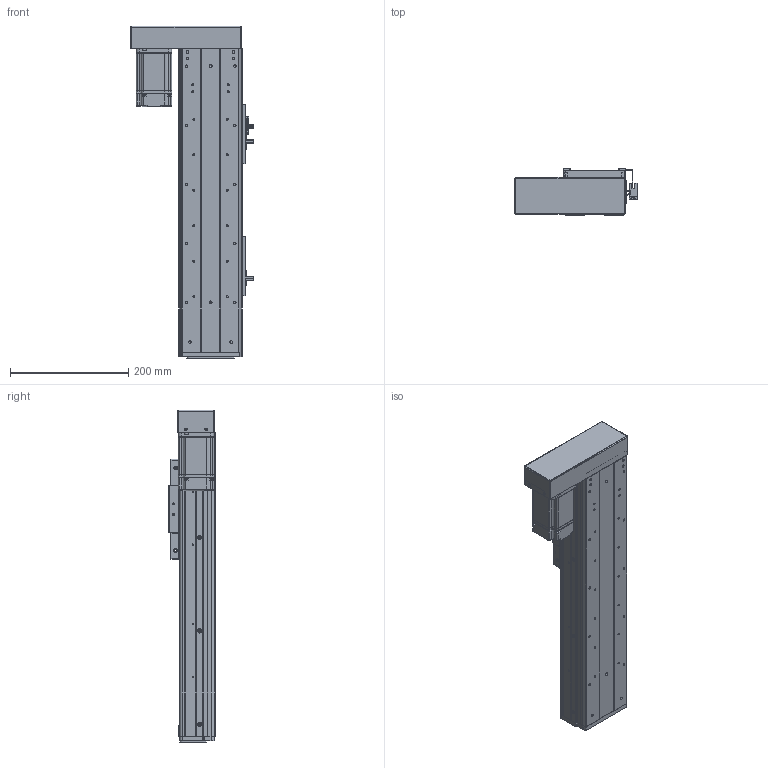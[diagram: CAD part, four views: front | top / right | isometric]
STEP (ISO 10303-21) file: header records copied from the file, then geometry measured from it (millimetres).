
FILE_DESCRIPTION (( 'STEP AP203' ), '1' );
FILE_NAME ('RY100FS-L1620-300-LK(15双轨).SLDASM_250.step', '2021-03-02T07:40:05', ( '盈信电脑' ), ( '东莞市道滘镇水果街19号' ), 'SwSTEP 2.0', 'SolidWorks 2012', '' );
FILE_SCHEMA (( 'CONFIG_CONTROL_DESIGN' ));
Products named in the file (23): RY100FS-15邧寢蛌殏萇儂欶; RY100FS-15邧寢蛌殏萇儂啣; 蚥薯蝶紫輸; RY100FS-L1620-300-LK(15邧寢).SLDASM_250; 滅袉蝶14-35; RY100FS-15邧寢蛌殏萇儂釱; 1; RY100FS-300-15絳寢-LK_250; 絳寢賑輸EGH15; RY100F-詩湍揤踡輸; RY100FS-双轨螺母座(16丝杆）; RY100F-綴裔啣; 覜茼ん672; RY80俋离覜茼え; 672嫖萇羲壽假蚾釱; RY100F-詩湍揤踡謫; RY100F-詩湍幗謫粣; 棠沺沭; RY100F-滅鳥裔啣; RY100FS-300-LK15邧寢祥凄詩湍_250; RY100FS-300-LK15絳寢倰第奻裔啣_250; RY100FS-双轨铝滑块(上板）; RY100FS-300-LK15絳寢倰第菁釱_250
Assembly tree (31 placements, depth 2):
  RY100FS-L1620-300-LK(15邧寢).SLDASM_250
    RY100FS-300-LK15絳寢倰第菁釱_250
    RY100FS-300-LK15絳寢倰第奻裔啣_250  x2
    RY100FS-300-LK15邧寢祥凄詩湍_250
    RY100FS-双轨铝滑块(上板）
    RY100F-滅鳥裔啣
    棠沺沭  x2
    RY100F-詩湍幗謫粣
    RY100F-詩湍揤踡謫  x2
    RY100F-綴裔啣
    672嫖萇羲壽假蚾釱  x2
    RY80俋离覜茼え  x2
    覜茼ん672  x3
    RY100F-詩湍揤踡輸  x2
    RY100FS-双轨螺母座(16丝杆）
    絳寢賑輸EGH15
    RY100FS-300-15絳寢-LK_250
    RY100FS-15邧寢蛌殏萇儂釱
    滅袉蝶14-35
    1
    RY100FS-15邧寢蛌殏萇儂啣
    RY100FS-15邧寢蛌殏萇儂欶
    蚥薯蝶紫輸  x2
Bounding box: 207.3 x 78.5 x 562 mm (x, y, z)
Volume: 1840193.3 mm3; surface area: 747077.7 mm2
Topology: 31 solids, 31 shells, 2317 faces, 6198 edges, 4001 vertices
Faces by surface type: plane 1090, cylinder 1026, cone 168, bspline 33
Entity records: 65484 total; most frequent: CARTESIAN_POINT 12989, DIRECTION 10563, ORIENTED_EDGE 10200, EDGE_CURVE 5100, AXIS2_PLACEMENT_3D 3743, VERTEX_POINT 3349, VECTOR 3077, LINE 3077
